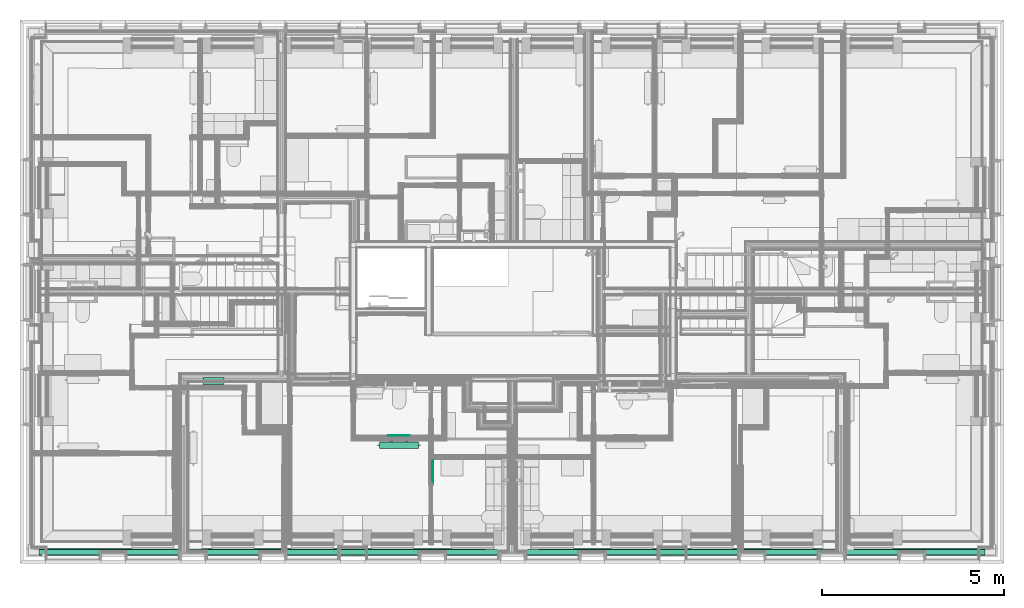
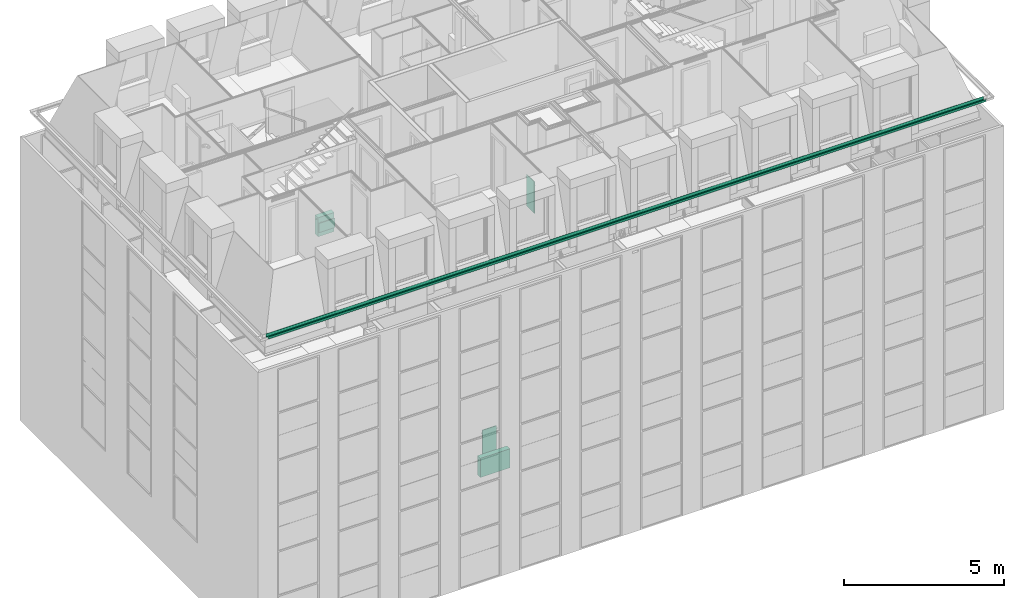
# One storey, part 145 of 169: 4 flow terminals, 1 flow fitting.
"""IFC2X3 building model written with IfcOpenShell, lengths in metres."""

from ifc_helpers import new_model, entity, si_unit, converted_unit, derived_unit, money_unit, direction, frame, origin_with_axes, place, context, subcontext, project, spatial, open_shell, faceted_brep, surface_model, material, type_object, element, save


model = new_model("IFC2X3")

# Units and contexts
model_context = context("Model", 3, precision=1e-05, world=origin_with_axes(), true_north=direction((0.0, 1.0)))
body_context = subcontext(model_context, "Body", "Model", "MODEL_VIEW", scale=1.0)
ifc_project = project(units=[si_unit("LENGTHUNIT", "METRE"), si_unit("AREAUNIT", "SQUARE_METRE"), si_unit("VOLUMEUNIT", "CUBIC_METRE"), si_unit("ABSORBEDDOSEUNIT", "GRAY"), si_unit("AMOUNTOFSUBSTANCEUNIT", "MOLE"), si_unit("DOSEEQUIVALENTUNIT", "SIEVERT"), si_unit("ELECTRICCAPACITANCEUNIT", "FARAD"), si_unit("ELECTRICCHARGEUNIT", "COULOMB"), si_unit("ELECTRICCONDUCTANCEUNIT", "SIEMENS"), si_unit("ELECTRICCURRENTUNIT", "AMPERE"), si_unit("ELECTRICRESISTANCEUNIT", "OHM"), si_unit("ELECTRICVOLTAGEUNIT", "VOLT"), si_unit("ENERGYUNIT", "JOULE"), si_unit("FORCEUNIT", "NEWTON"), si_unit("FREQUENCYUNIT", "HERTZ"), si_unit("ILLUMINANCEUNIT", "LUX"), si_unit("INDUCTANCEUNIT", "HENRY"), si_unit("LUMINOUSFLUXUNIT", "LUMEN"), si_unit("LUMINOUSINTENSITYUNIT", "CANDELA"), si_unit("MAGNETICFLUXDENSITYUNIT", "TESLA"), si_unit("MAGNETICFLUXUNIT", "WEBER"), si_unit("MASSUNIT", "GRAM"), converted_unit("PLANEANGLEUNIT", "degree", entity("IfcReal", 0.0174532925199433), si_unit("PLANEANGLEUNIT", "RADIAN"), dimensions=[0, 0, 0, 0, 0, 0, 0]), si_unit("POWERUNIT", "WATT"), si_unit("PRESSUREUNIT", "PASCAL"), si_unit("RADIOACTIVITYUNIT", "BECQUEREL"), si_unit("SOLIDANGLEUNIT", "STERADIAN"), si_unit("THERMODYNAMICTEMPERATUREUNIT", "KELVIN"), si_unit("TIMEUNIT", "SECOND"), derived_unit("ACCELERATIONUNIT", [(si_unit("LENGTHUNIT", "METRE"), 1), (si_unit("TIMEUNIT", "SECOND"), -2)]), derived_unit("ANGULARVELOCITYUNIT", [(converted_unit("PLANEANGLEUNIT", "degree", entity("IfcReal", 0.0174532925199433), si_unit("PLANEANGLEUNIT", "RADIAN"), dimensions=[0, 0, 0, 0, 0, 0, 0]), 1), (si_unit("TIMEUNIT", "SECOND"), -1)]), derived_unit("CURVATUREUNIT", [(converted_unit("PLANEANGLEUNIT", "degree", entity("IfcReal", 0.0174532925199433), si_unit("PLANEANGLEUNIT", "RADIAN"), dimensions=[0, 0, 0, 0, 0, 0, 0]), 1), (si_unit("LENGTHUNIT", "METRE"), -1)]), derived_unit("DYNAMICVISCOSITYUNIT", [(si_unit("PRESSUREUNIT", "PASCAL"), 1), (si_unit("TIMEUNIT", "SECOND"), 1)]), derived_unit("HEATFLUXDENSITYUNIT", [(si_unit("POWERUNIT", "WATT"), 1), (si_unit("LENGTHUNIT", "METRE"), -2)]), derived_unit("HEATINGVALUEUNIT", [(si_unit("ENERGYUNIT", "JOULE"), 1), (si_unit("MASSUNIT", "GRAM"), -1)]), derived_unit("INTEGERCOUNTRATEUNIT", [(si_unit("TIMEUNIT", "SECOND"), -1)]), derived_unit("IONCONCENTRATIONUNIT", [(si_unit("MASSUNIT", "GRAM"), 1), (si_unit("VOLUMEUNIT", "CUBIC_METRE"), -1)]), derived_unit("ISOTHERMALMOISTURECAPACITYUNIT", [(si_unit("VOLUMEUNIT", "CUBIC_METRE"), 1), (si_unit("MASSUNIT", "GRAM"), -1)]), derived_unit("KINEMATICVISCOSITYUNIT", [(si_unit("AREAUNIT", "SQUARE_METRE"), 1), (si_unit("TIMEUNIT", "SECOND"), -1)]), derived_unit("LINEARFORCEUNIT", [(si_unit("FORCEUNIT", "NEWTON"), 1), (si_unit("LENGTHUNIT", "METRE"), -1)]), derived_unit("LINEARMOMENTUNIT", [(si_unit("FORCEUNIT", "NEWTON"), 1), (si_unit("LENGTHUNIT", "METRE"), -1)]), derived_unit("LINEARSTIFFNESSUNIT", [(si_unit("FORCEUNIT", "NEWTON"), 1), (si_unit("LENGTHUNIT", "METRE"), -1)]), derived_unit("LINEARVELOCITYUNIT", [(si_unit("LENGTHUNIT", "METRE"), 1), (si_unit("TIMEUNIT", "SECOND"), -1)]), derived_unit("LUMINOUSINTENSITYDISTRIBUTIONUNIT", [(si_unit("LUMINOUSINTENSITYUNIT", "CANDELA"), 1), (si_unit("LUMINOUSFLUXUNIT", "LUMEN"), -1)]), derived_unit("MASSDENSITYUNIT", [(si_unit("MASSUNIT", "GRAM"), 1), (si_unit("VOLUMEUNIT", "CUBIC_METRE"), -1)]), derived_unit("MASSFLOWRATEUNIT", [(si_unit("MASSUNIT", "GRAM"), 1), (si_unit("TIMEUNIT", "SECOND"), -1)]), derived_unit("MASSPERLENGTHUNIT", [(si_unit("MASSUNIT", "GRAM"), 1), (si_unit("LENGTHUNIT", "METRE"), -1)]), derived_unit("MODULUSOFELASTICITYUNIT", [(si_unit("FORCEUNIT", "NEWTON"), 1), (si_unit("AREAUNIT", "SQUARE_METRE"), -1)]), derived_unit("MODULUSOFLINEARSUBGRADEREACTIONUNIT", [(si_unit("FORCEUNIT", "NEWTON"), 1), (si_unit("LENGTHUNIT", "METRE"), -2)]), derived_unit("MODULUSOFROTATIONALSUBGRADEREACTIONUNIT", [(si_unit("FORCEUNIT", "NEWTON"), 1), (si_unit("LENGTHUNIT", "METRE"), 1)]), derived_unit("MODULUSOFSUBGRADEREACTIONUNIT", [(si_unit("FORCEUNIT", "NEWTON"), 1), (si_unit("VOLUMEUNIT", "CUBIC_METRE"), -1)]), derived_unit("MOISTUREDIFFUSIVITYUNIT", [(si_unit("VOLUMEUNIT", "CUBIC_METRE"), 1), (si_unit("TIMEUNIT", "SECOND"), -1)]), derived_unit("MOLECULARWEIGHTUNIT", [(si_unit("MASSUNIT", "GRAM"), 1), (si_unit("AMOUNTOFSUBSTANCEUNIT", "MOLE"), -1)]), derived_unit("PLANARFORCEUNIT", [(si_unit("FORCEUNIT", "NEWTON"), 1), (si_unit("LENGTHUNIT", "METRE"), -2)]), derived_unit("ROTATIONALFREQUENCYUNIT", [(si_unit("TIMEUNIT", "SECOND"), -1)]), derived_unit("ROTATIONALMASSUNIT", [(si_unit("MASSUNIT", "GRAM"), 1), (si_unit("LENGTHUNIT", "METRE"), 2)]), derived_unit("ROTATIONALSTIFFNESSUNIT", [(si_unit("FORCEUNIT", "NEWTON"), 1), (si_unit("LENGTHUNIT", "METRE"), 1), (converted_unit("PLANEANGLEUNIT", "degree", entity("IfcReal", 0.0174532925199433), si_unit("PLANEANGLEUNIT", "RADIAN"), dimensions=[0, 0, 0, 0, 0, 0, 0]), -1)]), derived_unit("SECTIONAREAINTEGRALUNIT", [(si_unit("LENGTHUNIT", "METRE"), 5)]), derived_unit("SECTIONMODULUSUNIT", [(si_unit("LENGTHUNIT", "METRE"), 3)]), derived_unit("SHEARMODULUSUNIT", [(si_unit("FORCEUNIT", "NEWTON"), 1), (si_unit("AREAUNIT", "SQUARE_METRE"), -1)]), derived_unit("SOUNDPOWERUNIT", [(si_unit("ENERGYUNIT", "JOULE"), 1), (si_unit("TIMEUNIT", "SECOND"), -1)]), derived_unit("SPECIFICHEATCAPACITYUNIT", [(si_unit("FORCEUNIT", "NEWTON"), 1), (si_unit("MASSUNIT", "GRAM"), -1), (si_unit("THERMODYNAMICTEMPERATUREUNIT", "KELVIN"), -1)]), derived_unit("TEMPERATUREGRADIENTUNIT", [(si_unit("THERMODYNAMICTEMPERATUREUNIT", "KELVIN"), 1), (si_unit("LENGTHUNIT", "METRE"), -1)]), derived_unit("THERMALADMITTANCEUNIT", [(si_unit("POWERUNIT", "WATT"), 1), (si_unit("AREAUNIT", "SQUARE_METRE"), -1), (si_unit("THERMODYNAMICTEMPERATUREUNIT", "KELVIN"), -1)]), derived_unit("THERMALCONDUCTANCEUNIT", [(si_unit("POWERUNIT", "WATT"), 1), (si_unit("LENGTHUNIT", "METRE"), -1), (si_unit("THERMODYNAMICTEMPERATUREUNIT", "KELVIN"), -1)]), derived_unit("THERMALEXPANSIONCOEFFICIENTUNIT", [(si_unit("THERMODYNAMICTEMPERATUREUNIT", "KELVIN"), -1)]), derived_unit("THERMALRESISTANCEUNIT", [(si_unit("AREAUNIT", "SQUARE_METRE"), 1), (si_unit("POWERUNIT", "WATT"), -1)]), derived_unit("THERMALTRANSMITTANCEUNIT", [(si_unit("POWERUNIT", "WATT"), 1), (si_unit("AREAUNIT", "SQUARE_METRE"), -1), (si_unit("THERMODYNAMICTEMPERATUREUNIT", "KELVIN"), -1)]), derived_unit("TORQUEUNIT", [(si_unit("FORCEUNIT", "NEWTON"), 1), (si_unit("LENGTHUNIT", "METRE"), 1)]), derived_unit("VAPORPERMEABILITYUNIT", [(si_unit("MASSUNIT", "GRAM"), 1), (si_unit("TIMEUNIT", "SECOND"), -1)]), derived_unit("VOLUMETRICFLOWRATEUNIT", [(si_unit("VOLUMEUNIT", "CUBIC_METRE"), 1), (si_unit("TIMEUNIT", "SECOND"), -1)]), derived_unit("WARPINGCONSTANTUNIT", [(si_unit("LENGTHUNIT", "METRE"), 6)]), derived_unit("WARPINGMOMENTUNIT", [(si_unit("FORCEUNIT", "NEWTON"), 1), (si_unit("LENGTHUNIT", "METRE"), 2)]), money_unit("GBP")], contexts=[model_context])

# Site, building, storey
site_placement = place(None, origin_with_axes())
site = spatial("IfcSite", under=ifc_project, at=site_placement, Name="Site", CompositionType="ELEMENT")
building_placement = place(site_placement, origin_with_axes())
building = spatial("IfcBuilding", under=site, at=building_placement, Name="Building01", CompositionType="ELEMENT")
storey_placement = place(building_placement, frame((0.0, 0.0, 5.15), z_axis=(0.0, 0.0, 1.0), x_axis=(1.0, 0.0, 0.0)))
storey = spatial("IfcBuildingStorey", under=building, at=storey_placement, Name="1F", CompositionType="ELEMENT", Elevation=5.15)

# Flow fitting
ifc_material_1 = material(Name="A_BSUK_RainwaterDrainageSystems")
pipe_fitting_type = type_object("IfcPipeFittingType", Name="A-RainwaterDrainageSystems-GutterStraight", PredefinedType="NOTDEFINED")
flow_fitting_placement = place(storey_placement, frame((0.514653, 0.214346, 10.629268), z_axis=(0.0, 0.0, 1.0), x_axis=(1.0, 0.0, 0.0)))
element("IfcFlowFitting", 1, at=flow_fitting_placement, inside=storey, type_object=pipe_fitting_type, material=ifc_material_1, Name="A-RainwaterDrainageSystems-GutterStraight", ObjectType="A-RainwaterDrainageSystems-GutterStraight", context=body_context, shape_type="Brep", body=[
    faceted_brep([(25.951001, 0.0, 0.100732), (1e-06, 0.0, 0.100732), (1e-06, 0.0, 0.099144), (25.951001, 0.0, 0.099145), (25.951001, 0.005654, 0.099145), (1e-06, 0.005654, 0.099144), (1e-06, 0.018707, 0.0), (25.951001, 0.018707, 0.0), (1e-06, 0.170099, 0.0), (25.951001, 0.170099, 0.0), (1e-06, 0.183152, 0.099144), (25.951001, 0.183152, 0.099145), (1e-06, 0.188806, 0.099144), (25.951001, 0.188806, 0.099145), (1e-06, 0.188806, 0.100732), (25.951001, 0.188806, 0.100732), (1e-06, 0.18176, 0.100732), (25.951001, 0.18176, 0.100732), (1e-06, 0.168707, 0.001588), (25.951001, 0.168707, 0.001588), (1e-06, 0.020099, 0.001588), (25.951001, 0.020099, 0.001588), (1e-06, 0.007047, 0.100732), (25.951001, 0.007047, 0.100732)], [[[0, 1, 2, 3]], [[4, 5, 6, 7]], [[7, 6, 8, 9]], [[9, 8, 10, 11]], [[11, 10, 12, 13]], [[13, 12, 14, 15]], [[15, 14, 16, 17]], [[17, 16, 18, 19]], [[19, 18, 20, 21]], [[21, 20, 22, 23]], [[23, 22, 1, 0]], [[3, 4, 7, 9, 11, 13, 15, 17, 19, 21, 23, 0]], [[3, 2, 5, 4]], [[1, 22, 20, 18, 16, 14, 12, 10, 8, 6, 5, 2]]]),
])

# Space
space_1_placement = place(storey_placement, frame((12.15, 4.98, 0.017975), z_axis=(0.0, 0.0, 1.0), x_axis=(-1.0, 0.0, 0.0)))
space_1 = spatial("IfcSpace", under=storey, at=space_1_placement, Name="05", CompositionType="ELEMENT", InteriorOrExteriorSpace="NOTDEFINED")

# Flow terminal
ifc_material_2 = material(Name="M_BSUK_Ventilation")
space_heater_type_1 = type_object("IfcSpaceHeaterType", Name="M-BmvRadiatorpanel-Panel", PredefinedType="NOTDEFINED")
flow_terminal_1_placement = place(storey_placement, frame((10.927036, 3.23975, 0.665), z_axis=(0.0, 0.0, 1.0), x_axis=(1.0, 0.0, 0.0)))
element("IfcFlowTerminal", 2, at=flow_terminal_1_placement, inside=space_1, type_object=space_heater_type_1, material=ifc_material_2, Name="M-BmvRadiatorpanel-Panel", ObjectType="M-BmvRadiatorpanel-Panel", context=body_context, shape_type="SurfaceModel", body=[
    surface_model("IfcShellBasedSurfaceModel", [(-1.069, -0.0925, 0.365), (-1.069, 0.0925, 0.365), (0.0, 0.0925, 0.365), (0.0, -0.0925, 0.365), (-1.069, -0.0925, -0.365), (-1.069, 0.0925, -0.365), (0.0, -0.0925, -0.365), (0.0, 0.0925, -0.365), (-0.2345, 0.12025, 0.175), (-0.8345, 0.12025, 0.175), (-0.8345, 0.14525, 0.175), (-0.2345, 0.14525, 0.175), (-0.8345, 0.14525, -0.175), (-0.2345, 0.14525, -0.175), (-0.8345, 0.12025, -0.175), (-0.2345, 0.12025, -0.175), (-0.3245, 0.0925, 0.0775), (-0.3245, 0.12025, 0.0775), (-0.307279, 0.12025, 0.080925), (-0.307279, 0.0925, 0.080925), (-0.29268, 0.12025, 0.09068), (-0.29268, 0.0925, 0.09068), (-0.282925, 0.12025, 0.105279), (-0.282925, 0.0925, 0.105279), (-0.2795, 0.12025, 0.1225), (-0.2795, 0.0925, 0.1225), (-0.282925, 0.12025, 0.139721), (-0.282925, 0.0925, 0.139721), (-0.29268, 0.12025, 0.15432), (-0.29268, 0.0925, 0.15432), (-0.307279, 0.12025, 0.164075), (-0.307279, 0.0925, 0.164075), (-0.3245, 0.12025, 0.1675), (-0.3245, 0.0925, 0.1675), (-0.341721, 0.12025, 0.164075), (-0.341721, 0.0925, 0.164075), (-0.35632, 0.12025, 0.15432), (-0.35632, 0.0925, 0.15432), (-0.366075, 0.12025, 0.139721), (-0.366075, 0.0925, 0.139721), (-0.3695, 0.12025, 0.1225), (-0.3695, 0.0925, 0.1225), (-0.366075, 0.12025, 0.105279), (-0.366075, 0.0925, 0.105279), (-0.35632, 0.12025, 0.09068), (-0.35632, 0.0925, 0.09068), (-0.341721, 0.12025, 0.080925), (-0.341721, 0.0925, 0.080925), (-0.7445, 0.0925, 0.0775), (-0.7445, 0.12025, 0.0775), (-0.727279, 0.12025, 0.080925), (-0.727279, 0.0925, 0.080925), (-0.71268, 0.12025, 0.09068), (-0.71268, 0.0925, 0.09068), (-0.702925, 0.12025, 0.105279), (-0.702925, 0.0925, 0.105279), (-0.6995, 0.12025, 0.1225), (-0.6995, 0.0925, 0.1225), (-0.702925, 0.12025, 0.139721), (-0.702925, 0.0925, 0.139721), (-0.71268, 0.12025, 0.15432), (-0.71268, 0.0925, 0.15432), (-0.727279, 0.12025, 0.164075), (-0.727279, 0.0925, 0.164075), (-0.7445, 0.12025, 0.1675), (-0.7445, 0.0925, 0.1675), (-0.761721, 0.12025, 0.164075), (-0.761721, 0.0925, 0.164075), (-0.77632, 0.12025, 0.15432), (-0.77632, 0.0925, 0.15432), (-0.786075, 0.12025, 0.139721), (-0.786075, 0.0925, 0.139721), (-0.7895, 0.12025, 0.1225), (-0.7895, 0.0925, 0.1225), (-0.786075, 0.12025, 0.105279), (-0.786075, 0.0925, 0.105279), (-0.77632, 0.12025, 0.09068), (-0.77632, 0.0925, 0.09068), (-0.761721, 0.12025, 0.080925), (-0.761721, 0.0925, 0.080925), (0.05, 0.0, -0.0225), (0.0, 0.0, -0.0225), (0.0, 0.004784, -0.021548), (0.05, 0.004784, -0.021548), (0.0, 0.008839, -0.018839), (0.05, 0.008839, -0.018839), (0.0, 0.011548, -0.014784), (0.05, 0.011548, -0.014784), (0.0, 0.0125, -0.01), (0.05, 0.0125, -0.01), (0.0, 0.011548, -0.005216), (0.05, 0.011548, -0.005216), (0.0, 0.008839, -0.001161), (0.05, 0.008839, -0.001161), (0.0, 0.004784, 0.001548), (0.05, 0.004784, 0.001548), (0.0, 0.0, 0.0025), (0.05, 0.0, 0.0025), (0.0, -0.004784, 0.001548), (0.05, -0.004784, 0.001548), (0.0, -0.008839, -0.001161), (0.05, -0.008839, -0.001161), (0.0, -0.011548, -0.005216), (0.05, -0.011548, -0.005216), (0.0, -0.0125, -0.01), (0.05, -0.0125, -0.01), (0.0, -0.011548, -0.014784), (0.05, -0.011548, -0.014784), (0.0, -0.008839, -0.018839), (0.05, -0.008839, -0.018839), (0.0, -0.004784, -0.021548), (0.05, -0.004784, -0.021548), (-1.119, 0.0, 0.2525), (-1.069, 0.0, 0.2525), (-1.069, -0.004784, 0.253452), (-1.119, -0.004784, 0.253452), (-1.069, -0.008839, 0.256161), (-1.119, -0.008839, 0.256161), (-1.069, -0.011548, 0.260216), (-1.119, -0.011548, 0.260216), (-1.069, -0.0125, 0.265), (-1.119, -0.0125, 0.265), (-1.069, -0.011548, 0.269784), (-1.119, -0.011548, 0.269784), (-1.069, -0.008839, 0.273839), (-1.119, -0.008839, 0.273839), (-1.069, -0.004784, 0.276548), (-1.119, -0.004784, 0.276548), (-1.069, 0.0, 0.2775), (-1.119, 0.0, 0.2775), (-1.069, 0.004784, 0.276548), (-1.119, 0.004784, 0.276548), (-1.069, 0.008839, 0.273839), (-1.119, 0.008839, 0.273839), (-1.069, 0.011548, 0.269784), (-1.119, 0.011548, 0.269784), (-1.069, 0.0125, 0.265), (-1.119, 0.0125, 0.265), (-1.069, 0.011548, 0.260216), (-1.119, 0.011548, 0.260216), (-1.069, 0.008839, 0.256161), (-1.119, 0.008839, 0.256161), (-1.069, 0.004784, 0.253452), (-1.119, 0.004784, 0.253452)], [open_shell([[[0, 1, 2, 3]], [[4, 5, 1, 0]], [[6, 7, 5, 4]], [[3, 2, 7, 6]], [[1, 5, 7, 2]], [[3, 6, 4, 0]], [[8, 9, 10, 11]], [[11, 10, 12, 13]], [[13, 12, 14, 15]], [[15, 14, 9, 8]], [[9, 14, 12, 10]], [[11, 13, 15, 8]], [[16, 17, 18, 19]], [[19, 18, 20, 21]], [[21, 20, 22, 23]], [[23, 22, 24, 25]], [[25, 24, 26, 27]], [[27, 26, 28, 29]], [[29, 28, 30, 31]], [[31, 30, 32, 33]], [[33, 32, 34, 35]], [[35, 34, 36, 37]], [[37, 36, 38, 39]], [[39, 38, 40, 41]], [[41, 40, 42, 43]], [[43, 42, 44, 45]], [[45, 44, 46, 47]], [[47, 46, 17, 16]], [[48, 49, 50, 51]], [[51, 50, 52, 53]], [[53, 52, 54, 55]], [[55, 54, 56, 57]], [[57, 56, 58, 59]], [[59, 58, 60, 61]], [[61, 60, 62, 63]], [[63, 62, 64, 65]], [[65, 64, 66, 67]], [[67, 66, 68, 69]], [[69, 68, 70, 71]], [[71, 70, 72, 73]], [[73, 72, 74, 75]], [[75, 74, 76, 77]], [[77, 76, 78, 79]], [[79, 78, 49, 48]], [[80, 81, 82, 83]], [[83, 82, 84, 85]], [[85, 84, 86, 87]], [[87, 86, 88, 89]], [[89, 88, 90, 91]], [[91, 90, 92, 93]], [[93, 92, 94, 95]], [[95, 94, 96, 97]], [[97, 96, 98, 99]], [[99, 98, 100, 101]], [[101, 100, 102, 103]], [[103, 102, 104, 105]], [[105, 104, 106, 107]], [[107, 106, 108, 109]], [[109, 108, 110, 111]], [[111, 110, 81, 80]], [[112, 113, 114, 115]], [[115, 114, 116, 117]], [[117, 116, 118, 119]], [[119, 118, 120, 121]], [[121, 120, 122, 123]], [[123, 122, 124, 125]], [[125, 124, 126, 127]], [[127, 126, 128, 129]], [[129, 128, 130, 131]], [[131, 130, 132, 133]], [[133, 132, 134, 135]], [[135, 134, 136, 137]], [[137, 136, 138, 139]], [[139, 138, 140, 141]], [[141, 140, 142, 143]], [[143, 142, 113, 112]]])]),
])

# Space
space_2_placement = place(storey_placement, frame((12.175, 4.189428, 9.86), z_axis=(0.0, 0.0, 1.0), x_axis=(0.0, 1.0, 0.0)))
space_2 = spatial("IfcSpace", under=storey, at=space_2_placement, Name="25", CompositionType="ELEMENT", InteriorOrExteriorSpace="NOTDEFINED")

# Flow terminals
flow_terminal_2_placement = place(storey_placement, frame((5.596128, 5.005189, 10.495), z_axis=(0.0, 0.0, 1.0), x_axis=(-1.0, 0.0, 0.0)))
element("IfcFlowTerminal", 3, at=flow_terminal_2_placement, inside=space_2, type_object=space_heater_type_1, material=ifc_material_2, Name="M-BmvRadiatorpanel-Panel", ObjectType="M-BmvRadiatorpanel-Panel", context=body_context, shape_type="SurfaceModel", body=[
    surface_model("IfcShellBasedSurfaceModel", [(0.58, -0.0925, 0.365), (0.58, 0.0925, 0.365), (0.0, 0.0925, 0.365), (0.0, -0.0925, 0.365), (0.58, -0.0925, -0.365), (0.58, 0.0925, -0.365), (0.0, -0.0925, -0.365), (0.0, 0.0925, -0.365), (0.0, 0.12025, 0.175), (0.58, 0.12025, 0.175), (0.58, 0.14525, 0.175), (0.0, 0.14525, 0.175), (0.58, 0.14525, -0.175), (0.0, 0.14525, -0.175), (0.58, 0.12025, -0.175), (0.0, 0.12025, -0.175), (0.087, 0.0925, 0.079), (0.087, 0.12025, 0.079), (0.103647, 0.12025, 0.082311), (0.103647, 0.0925, 0.082311), (0.117759, 0.12025, 0.091741), (0.117759, 0.0925, 0.091741), (0.127189, 0.12025, 0.105853), (0.127189, 0.0925, 0.105853), (0.1305, 0.12025, 0.1225), (0.1305, 0.0925, 0.1225), (0.127189, 0.12025, 0.139147), (0.127189, 0.0925, 0.139147), (0.117759, 0.12025, 0.153259), (0.117759, 0.0925, 0.153259), (0.103647, 0.12025, 0.162689), (0.103647, 0.0925, 0.162689), (0.087, 0.12025, 0.166), (0.087, 0.0925, 0.166), (0.070353, 0.12025, 0.162689), (0.070353, 0.0925, 0.162689), (0.056241, 0.12025, 0.153259), (0.056241, 0.0925, 0.153259), (0.046811, 0.12025, 0.139147), (0.046811, 0.0925, 0.139147), (0.0435, 0.12025, 0.1225), (0.0435, 0.0925, 0.1225), (0.046811, 0.12025, 0.105853), (0.046811, 0.0925, 0.105853), (0.056241, 0.12025, 0.091741), (0.056241, 0.0925, 0.091741), (0.070353, 0.12025, 0.082311), (0.070353, 0.0925, 0.082311), (0.493, 0.0925, 0.079), (0.493, 0.12025, 0.079), (0.509647, 0.12025, 0.082311), (0.509647, 0.0925, 0.082311), (0.523759, 0.12025, 0.091741), (0.523759, 0.0925, 0.091741), (0.533189, 0.12025, 0.105853), (0.533189, 0.0925, 0.105853), (0.5365, 0.12025, 0.1225), (0.5365, 0.0925, 0.1225), (0.533189, 0.12025, 0.139147), (0.533189, 0.0925, 0.139147), (0.523759, 0.12025, 0.153259), (0.523759, 0.0925, 0.153259), (0.509647, 0.12025, 0.162689), (0.509647, 0.0925, 0.162689), (0.493, 0.12025, 0.166), (0.493, 0.0925, 0.166), (0.476353, 0.12025, 0.162689), (0.476353, 0.0925, 0.162689), (0.462241, 0.12025, 0.153259), (0.462241, 0.0925, 0.153259), (0.452811, 0.12025, 0.139147), (0.452811, 0.0925, 0.139147), (0.4495, 0.12025, 0.1225), (0.4495, 0.0925, 0.1225), (0.452811, 0.12025, 0.105853), (0.452811, 0.0925, 0.105853), (0.462241, 0.12025, 0.091741), (0.462241, 0.0925, 0.091741), (0.476353, 0.12025, 0.082311), (0.476353, 0.0925, 0.082311), (-0.05, 0.0, -0.0225), (0.0, 0.0, -0.0225), (0.0, -0.004784, -0.021548), (-0.05, -0.004784, -0.021548), (0.0, -0.008839, -0.018839), (-0.05, -0.008839, -0.018839), (0.0, -0.011548, -0.014784), (-0.05, -0.011548, -0.014784), (0.0, -0.0125, -0.01), (-0.05, -0.0125, -0.01), (0.0, -0.011548, -0.005216), (-0.05, -0.011548, -0.005216), (0.0, -0.008839, -0.001161), (-0.05, -0.008839, -0.001161), (0.0, -0.004784, 0.001548), (-0.05, -0.004784, 0.001548), (0.0, 0.0, 0.0025), (-0.05, 0.0, 0.0025), (0.0, 0.004784, 0.001548), (-0.05, 0.004784, 0.001548), (0.0, 0.008839, -0.001161), (-0.05, 0.008839, -0.001161), (0.0, 0.011548, -0.005216), (-0.05, 0.011548, -0.005216), (0.0, 0.0125, -0.01), (-0.05, 0.0125, -0.01), (0.0, 0.011548, -0.014784), (-0.05, 0.011548, -0.014784), (0.0, 0.008839, -0.018839), (-0.05, 0.008839, -0.018839), (0.0, 0.004784, -0.021548), (-0.05, 0.004784, -0.021548), (0.63, 0.0, 0.2525), (0.58, 0.0, 0.2525), (0.58, 0.004784, 0.253452), (0.63, 0.004784, 0.253452), (0.58, 0.008839, 0.256161), (0.63, 0.008839, 0.256161), (0.58, 0.011548, 0.260216), (0.63, 0.011548, 0.260216), (0.58, 0.0125, 0.265), (0.63, 0.0125, 0.265), (0.58, 0.011548, 0.269784), (0.63, 0.011548, 0.269784), (0.58, 0.008839, 0.273839), (0.63, 0.008839, 0.273839), (0.58, 0.004784, 0.276548), (0.63, 0.004784, 0.276548), (0.58, 0.0, 0.2775), (0.63, 0.0, 0.2775), (0.58, -0.004784, 0.276548), (0.63, -0.004784, 0.276548), (0.58, -0.008839, 0.273839), (0.63, -0.008839, 0.273839), (0.58, -0.011548, 0.269784), (0.63, -0.011548, 0.269784), (0.58, -0.0125, 0.265), (0.63, -0.0125, 0.265), (0.58, -0.011548, 0.260216), (0.63, -0.011548, 0.260216), (0.58, -0.008839, 0.256161), (0.63, -0.008839, 0.256161), (0.58, -0.004784, 0.253452), (0.63, -0.004784, 0.253452)], [open_shell([[[0, 1, 2, 3]], [[4, 5, 1, 0]], [[6, 7, 5, 4]], [[3, 2, 7, 6]], [[1, 5, 7, 2]], [[3, 6, 4, 0]], [[8, 9, 10, 11]], [[11, 10, 12, 13]], [[13, 12, 14, 15]], [[15, 14, 9, 8]], [[9, 14, 12, 10]], [[11, 13, 15, 8]], [[16, 17, 18, 19]], [[19, 18, 20, 21]], [[21, 20, 22, 23]], [[23, 22, 24, 25]], [[25, 24, 26, 27]], [[27, 26, 28, 29]], [[29, 28, 30, 31]], [[31, 30, 32, 33]], [[33, 32, 34, 35]], [[35, 34, 36, 37]], [[37, 36, 38, 39]], [[39, 38, 40, 41]], [[41, 40, 42, 43]], [[43, 42, 44, 45]], [[45, 44, 46, 47]], [[47, 46, 17, 16]], [[48, 49, 50, 51]], [[51, 50, 52, 53]], [[53, 52, 54, 55]], [[55, 54, 56, 57]], [[57, 56, 58, 59]], [[59, 58, 60, 61]], [[61, 60, 62, 63]], [[63, 62, 64, 65]], [[65, 64, 66, 67]], [[67, 66, 68, 69]], [[69, 68, 70, 71]], [[71, 70, 72, 73]], [[73, 72, 74, 75]], [[75, 74, 76, 77]], [[77, 76, 78, 79]], [[79, 78, 49, 48]], [[80, 81, 82, 83]], [[83, 82, 84, 85]], [[85, 84, 86, 87]], [[87, 86, 88, 89]], [[89, 88, 90, 91]], [[91, 90, 92, 93]], [[93, 92, 94, 95]], [[95, 94, 96, 97]], [[97, 96, 98, 99]], [[99, 98, 100, 101]], [[101, 100, 102, 103]], [[103, 102, 104, 105]], [[105, 104, 106, 107]], [[107, 106, 108, 109]], [[109, 108, 110, 111]], [[111, 110, 81, 80]], [[112, 113, 114, 115]], [[115, 114, 116, 117]], [[117, 116, 118, 119]], [[119, 118, 120, 121]], [[121, 120, 122, 123]], [[123, 122, 124, 125]], [[125, 124, 126, 127]], [[127, 126, 128, 129]], [[129, 128, 130, 131]], [[131, 130, 132, 133]], [[133, 132, 134, 135]], [[135, 134, 136, 137]], [[137, 136, 138, 139]], [[139, 138, 140, 141]], [[141, 140, 142, 143]], [[143, 142, 113, 112]]])]),
])
space_heater_type_2 = type_object("IfcSpaceHeaterType", Name="M-BmvRadiator-Column", PredefinedType="NOTDEFINED")
flow_terminal_3_placement = place(storey_placement, frame((10.642536, 3.5075, 1.2), z_axis=(0.0, 0.0, 1.0), x_axis=(1.0, 0.0, 0.0)))
element("IfcFlowTerminal", 4, at=flow_terminal_3_placement, inside=space_1, type_object=space_heater_type_2, material=ifc_material_2, Name="M-BmvRadiator-Column", ObjectType="M-BmvRadiator-Column", context=body_context, shape_type="SurfaceModel", body=[
    surface_model("IfcShellBasedSurfaceModel", [(0.0, -0.0125, 0.6), (0.0, -0.0125, -0.6), (0.0, 0.0125, -0.6), (0.0, 0.0125, 0.6), (-0.5, -0.0125, 0.6), (-0.5, -0.0125, -0.6), (-0.5, 0.0125, -0.6), (-0.5, 0.0125, 0.6), (-0.1, 0.0125, 0.6), (-0.1, -0.0125, 0.6), (-0.1, -0.0125, -0.6), (-0.1, 0.0125, -0.6), (-0.2, 0.0125, 0.6), (-0.2, -0.0125, 0.6), (-0.2, -0.0125, -0.6), (-0.2, 0.0125, -0.6), (-0.3, 0.0125, 0.6), (-0.3, -0.0125, 0.6), (-0.3, -0.0125, -0.6), (-0.3, 0.0125, -0.6), (-0.4, 0.0125, 0.6), (-0.4, -0.0125, 0.6), (-0.4, -0.0125, -0.6), (-0.4, 0.0125, -0.6), (0.05, 0.0, 0.4825), (0.0, 0.0, 0.4825), (0.0, 0.003827, 0.483261), (0.05, 0.003827, 0.483261), (0.0, 0.007071, 0.485429), (0.05, 0.007071, 0.485429), (0.0, 0.009239, 0.488673), (0.05, 0.009239, 0.488673), (0.0, 0.01, 0.4925), (0.05, 0.01, 0.4925), (0.0, 0.009239, 0.496327), (0.05, 0.009239, 0.496327), (0.0, 0.007071, 0.499571), (0.05, 0.007071, 0.499571), (0.0, 0.003827, 0.501739), (0.05, 0.003827, 0.501739), (0.0, 0.0, 0.5025), (0.05, 0.0, 0.5025), (0.0, -0.003827, 0.501739), (0.05, -0.003827, 0.501739), (0.0, -0.007071, 0.499571), (0.05, -0.007071, 0.499571), (0.0, -0.009239, 0.496327), (0.05, -0.009239, 0.496327), (0.0, -0.01, 0.4925), (0.05, -0.01, 0.4925), (0.0, -0.009239, 0.488673), (0.05, -0.009239, 0.488673), (0.0, -0.007071, 0.485429), (0.05, -0.007071, 0.485429), (0.0, -0.003827, 0.483261), (0.05, -0.003827, 0.483261), (-0.55, 0.0, 0.4884), (-0.5, 0.0, 0.4884), (-0.5, -0.003827, 0.489161), (-0.55, -0.003827, 0.489161), (-0.5, -0.007071, 0.491329), (-0.55, -0.007071, 0.491329), (-0.5, -0.009239, 0.494573), (-0.55, -0.009239, 0.494573), (-0.5, -0.01, 0.4984), (-0.55, -0.01, 0.4984), (-0.5, -0.009239, 0.502227), (-0.55, -0.009239, 0.502227), (-0.5, -0.007071, 0.505471), (-0.55, -0.007071, 0.505471), (-0.5, -0.003827, 0.507639), (-0.55, -0.003827, 0.507639), (-0.5, 0.0, 0.5084), (-0.55, 0.0, 0.5084), (-0.5, 0.003827, 0.507639), (-0.55, 0.003827, 0.507639), (-0.5, 0.007071, 0.505471), (-0.55, 0.007071, 0.505471), (-0.5, 0.009239, 0.502227), (-0.55, 0.009239, 0.502227), (-0.5, 0.01, 0.4984), (-0.55, 0.01, 0.4984), (-0.5, 0.009239, 0.494573), (-0.55, 0.009239, 0.494573), (-0.5, 0.007071, 0.491329), (-0.55, 0.007071, 0.491329), (-0.5, 0.003827, 0.489161), (-0.55, 0.003827, 0.489161)], [open_shell([[[0, 1, 2, 3]], [[4, 5, 6, 7]], [[8, 3, 0, 9]], [[9, 0, 1, 10]], [[10, 1, 2, 11]], [[11, 2, 3, 8]], [[12, 8, 9, 13]], [[13, 9, 10, 14]], [[14, 10, 11, 15]], [[15, 11, 8, 12]], [[16, 12, 13, 17]], [[17, 13, 14, 18]], [[18, 14, 15, 19]], [[19, 15, 12, 16]], [[20, 16, 17, 21]], [[21, 17, 18, 22]], [[22, 18, 19, 23]], [[23, 19, 16, 20]], [[7, 20, 21, 4]], [[4, 21, 22, 5]], [[5, 22, 23, 6]], [[6, 23, 20, 7]], [[24, 25, 26, 27]], [[27, 26, 28, 29]], [[29, 28, 30, 31]], [[31, 30, 32, 33]], [[33, 32, 34, 35]], [[35, 34, 36, 37]], [[37, 36, 38, 39]], [[39, 38, 40, 41]], [[41, 40, 42, 43]], [[43, 42, 44, 45]], [[45, 44, 46, 47]], [[47, 46, 48, 49]], [[49, 48, 50, 51]], [[51, 50, 52, 53]], [[53, 52, 54, 55]], [[55, 54, 25, 24]], [[56, 57, 58, 59]], [[59, 58, 60, 61]], [[61, 60, 62, 63]], [[63, 62, 64, 65]], [[65, 64, 66, 67]], [[67, 66, 68, 69]], [[69, 68, 70, 71]], [[71, 70, 72, 73]], [[73, 72, 74, 75]], [[75, 74, 76, 77]], [[77, 76, 78, 79]], [[79, 78, 80, 81]], [[81, 80, 82, 83]], [[83, 82, 84, 85]], [[85, 84, 86, 87]], [[87, 86, 57, 56]]])]),
])

# Space
space_3_placement = place(storey_placement, frame((11.31, 1.009621, 9.86), z_axis=(0.0, 0.0, 1.0), x_axis=(1.0, 0.0, 0.0)))
space_3 = spatial("IfcSpace", under=storey, at=space_3_placement, Name="ensuite", CompositionType="ELEMENT", InteriorOrExteriorSpace="NOTDEFINED")

# Flow terminal
flow_terminal_4_placement = place(storey_placement, frame((11.3225, 2.780835, 11.015), z_axis=(0.0, 0.0, 1.0), x_axis=(0.0, -1.0, 0.0)))
element("IfcFlowTerminal", 5, at=flow_terminal_4_placement, inside=space_3, type_object=space_heater_type_2, material=ifc_material_2, Name="M-BmvRadiator-Column", ObjectType="M-BmvRadiator-Column", context=body_context, shape_type="SurfaceModel", body=[
    surface_model("IfcShellBasedSurfaceModel", [(0.0, -0.0125, 0.6), (0.0, -0.0125, -0.6), (0.0, 0.0125, -0.6), (0.0, 0.0125, 0.6), (0.5, -0.0125, 0.6), (0.5, -0.0125, -0.6), (0.5, 0.0125, -0.6), (0.5, 0.0125, 0.6), (0.1, 0.0125, 0.6), (0.1, -0.0125, 0.6), (0.1, -0.0125, -0.6), (0.1, 0.0125, -0.6), (0.2, 0.0125, 0.6), (0.2, -0.0125, 0.6), (0.2, -0.0125, -0.6), (0.2, 0.0125, -0.6), (0.3, 0.0125, 0.6), (0.3, -0.0125, 0.6), (0.3, -0.0125, -0.6), (0.3, 0.0125, -0.6), (0.4, 0.0125, 0.6), (0.4, -0.0125, 0.6), (0.4, -0.0125, -0.6), (0.4, 0.0125, -0.6), (-0.05, 0.0, 0.4825), (0.0, 0.0, 0.4825), (0.0, -0.003827, 0.483261), (-0.05, -0.003827, 0.483261), (0.0, -0.007071, 0.485429), (-0.05, -0.007071, 0.485429), (0.0, -0.009239, 0.488673), (-0.05, -0.009239, 0.488673), (0.0, -0.01, 0.4925), (-0.05, -0.01, 0.4925), (0.0, -0.009239, 0.496327), (-0.05, -0.009239, 0.496327), (0.0, -0.007071, 0.499571), (-0.05, -0.007071, 0.499571), (0.0, -0.003827, 0.501739), (-0.05, -0.003827, 0.501739), (0.0, 0.0, 0.5025), (-0.05, 0.0, 0.5025), (0.0, 0.003827, 0.501739), (-0.05, 0.003827, 0.501739), (0.0, 0.007071, 0.499571), (-0.05, 0.007071, 0.499571), (0.0, 0.009239, 0.496327), (-0.05, 0.009239, 0.496327), (0.0, 0.01, 0.4925), (-0.05, 0.01, 0.4925), (0.0, 0.009239, 0.488673), (-0.05, 0.009239, 0.488673), (0.0, 0.007071, 0.485429), (-0.05, 0.007071, 0.485429), (0.0, 0.003827, 0.483261), (-0.05, 0.003827, 0.483261), (0.55, 0.0, 0.4884), (0.5, 0.0, 0.4884), (0.5, 0.003827, 0.489161), (0.55, 0.003827, 0.489161), (0.5, 0.007071, 0.491329), (0.55, 0.007071, 0.491329), (0.5, 0.009239, 0.494573), (0.55, 0.009239, 0.494573), (0.5, 0.01, 0.4984), (0.55, 0.01, 0.4984), (0.5, 0.009239, 0.502227), (0.55, 0.009239, 0.502227), (0.5, 0.007071, 0.505471), (0.55, 0.007071, 0.505471), (0.5, 0.003827, 0.507639), (0.55, 0.003827, 0.507639), (0.5, 0.0, 0.5084), (0.55, 0.0, 0.5084), (0.5, -0.003827, 0.507639), (0.55, -0.003827, 0.507639), (0.5, -0.007071, 0.505471), (0.55, -0.007071, 0.505471), (0.5, -0.009239, 0.502227), (0.55, -0.009239, 0.502227), (0.5, -0.01, 0.4984), (0.55, -0.01, 0.4984), (0.5, -0.009239, 0.494573), (0.55, -0.009239, 0.494573), (0.5, -0.007071, 0.491329), (0.55, -0.007071, 0.491329), (0.5, -0.003827, 0.489161), (0.55, -0.003827, 0.489161)], [open_shell([[[0, 1, 2, 3]], [[4, 5, 6, 7]], [[8, 3, 0, 9]], [[9, 0, 1, 10]], [[10, 1, 2, 11]], [[11, 2, 3, 8]], [[12, 8, 9, 13]], [[13, 9, 10, 14]], [[14, 10, 11, 15]], [[15, 11, 8, 12]], [[16, 12, 13, 17]], [[17, 13, 14, 18]], [[18, 14, 15, 19]], [[19, 15, 12, 16]], [[20, 16, 17, 21]], [[21, 17, 18, 22]], [[22, 18, 19, 23]], [[23, 19, 16, 20]], [[7, 20, 21, 4]], [[4, 21, 22, 5]], [[5, 22, 23, 6]], [[6, 23, 20, 7]], [[24, 25, 26, 27]], [[27, 26, 28, 29]], [[29, 28, 30, 31]], [[31, 30, 32, 33]], [[33, 32, 34, 35]], [[35, 34, 36, 37]], [[37, 36, 38, 39]], [[39, 38, 40, 41]], [[41, 40, 42, 43]], [[43, 42, 44, 45]], [[45, 44, 46, 47]], [[47, 46, 48, 49]], [[49, 48, 50, 51]], [[51, 50, 52, 53]], [[53, 52, 54, 55]], [[55, 54, 25, 24]], [[56, 57, 58, 59]], [[59, 58, 60, 61]], [[61, 60, 62, 63]], [[63, 62, 64, 65]], [[65, 64, 66, 67]], [[67, 66, 68, 69]], [[69, 68, 70, 71]], [[71, 70, 72, 73]], [[73, 72, 74, 75]], [[75, 74, 76, 77]], [[77, 76, 78, 79]], [[79, 78, 80, 81]], [[81, 80, 82, 83]], [[83, 82, 84, 85]], [[85, 84, 86, 87]], [[87, 86, 57, 56]]])]),
])

save(model, "model.ifc")
